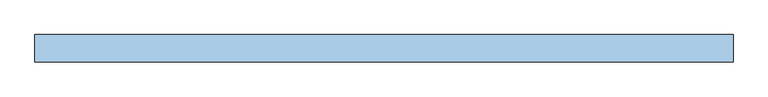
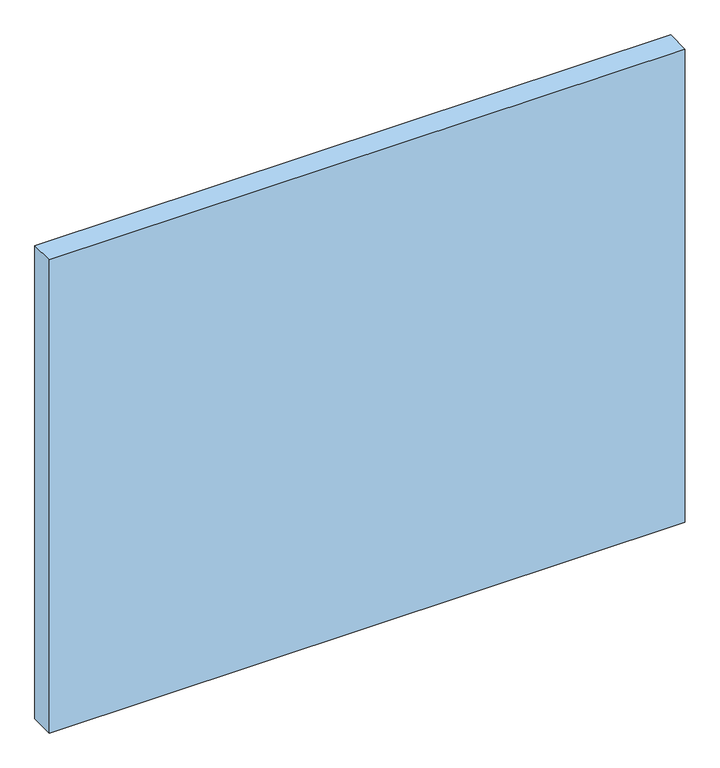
"""IFC4 building model written with IfcOpenShell, lengths in millimetres: window geometry, Dr_Проем-Четверти_окно : ОК."""

from ifc_helpers import new_model, si_unit, frame, origin, place, context, project, spatial, polyline, outline, extrude, source, transform, mapped, element, save


def window_eebed9c6(model_context):
    return source(origin(), model_context, "Body", "SweptSolid", [
        extrude(outline(polyline([(2055.0, 50.0), (2055.0, -100.0), (-1785.0, -100.0), (-1785.0, 50.0), (2055.0, 50.0)])), frame((0.0, 0.0, -60.0), z_axis=(0.0, 0.0, 1.0), x_axis=(1.0, 0.0, 0.0)), (0.0, 0.0, 1.0), 3020.0),
    ])


if __name__ == "__main__":
    model = new_model("IFC4")
    model_context = context("Model", 3, world=origin())
    ifc_project = project(units=[si_unit("LENGTHUNIT", "METRE", prefix="MILLI")], contexts=[model_context])
    site = spatial("IfcSite", under=ifc_project)
    building = spatial("IfcBuilding", under=site)
    placement = place(None, origin())
    window_shape = window_eebed9c6(model_context)
    element("IfcWindow", 1, ObjectType="Dr_Проем-Четверти_окно : ОК", at=placement, inside=building, context=model_context, shape_type="MappedRepresentation", body=[
        mapped(window_shape, transform((0.0, 0.0, 0.0), x_axis=(1.0, 0.0, 0.0), y_axis=(0.0, 1.0, 0.0), z_axis=(0.0, 0.0, 1.0))),
    ])
    save(model, "model.ifc")
